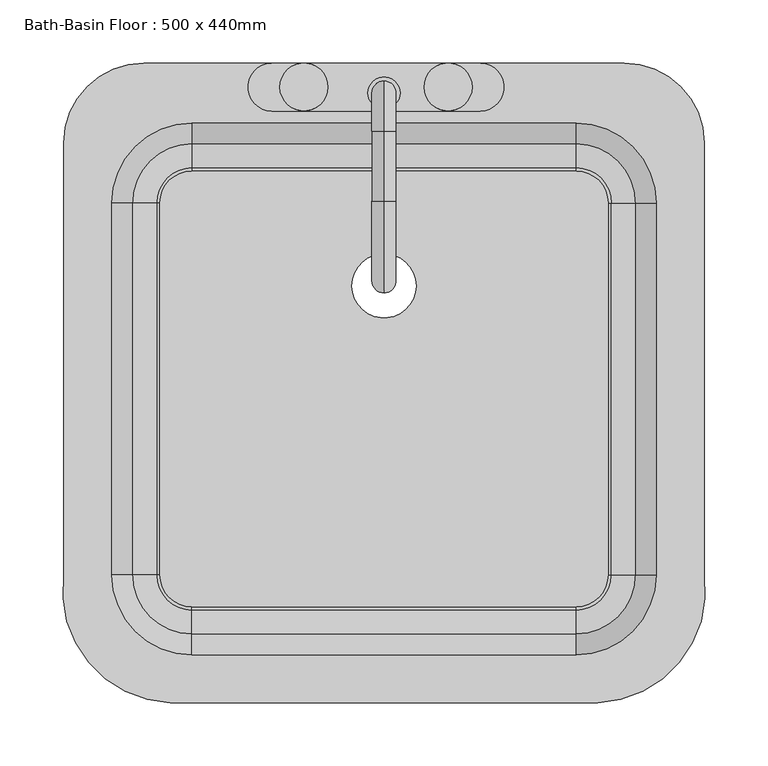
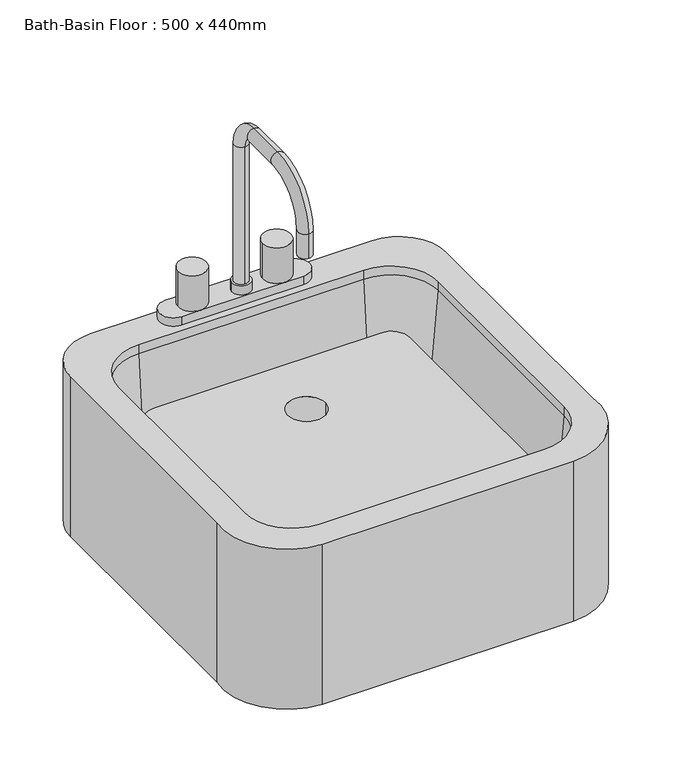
"""IFC4 building model written with IfcOpenShell, lengths in millimetres: flow terminal geometry, Bath-Basin Floor : 500 x 440mm."""

from ifc_helpers import new_model, si_unit, point, frame, origin, place, context, project, spatial, polyline, circle_curve, ellipse_curve, trimmed, source, transform, mapped, element, save
from ifc_brep_helpers import plane_surface, cylinder_surface, revolved_surface, advanced_brep


def bath_basin_floor_500_x_440mm_6f474ecf(model_context):
    return source(origin(), model_context, "Body", "AdvancedBrep", [
        advanced_brep(
        [(-153.9606923, -327.8545989, 393.7), (-238.3107593, -226.2545982, 393.7), (-238.3107593, 116.6454011, 393.7), (-174.8107593, 180.1454011, 393.7), (206.1892406, 180.1454011, 393.7), (269.6892406, 116.6454011, 393.7), (269.6892406, -226.2545989, 393.7), (185.3391735, -327.8545989, 393.7), (-9.7107594, 3.175, 393.7), (41.0892406, 3.175, 393.7), (196.0776588, 69.0204011, 403.225), (168.0892406, 97.0088193, 403.225), (168.0892406, 94.4204011, 403.225), (193.4892406, 69.0204011, 403.225), (215.0551678, 69.0204011, 420.6146831), (168.0892406, 115.9863283, 420.6146831), (231.5892406, 69.0204011, 609.6), (168.0892406, 132.5204011, 609.6), (196.0776588, -226.2545989, 403.225), (215.0551678, -226.2545989, 420.6146831), (231.5892406, -226.2545989, 609.6), (168.0892406, -254.2430171, 403.225), (168.0892406, -273.2205261, 420.6146831), (168.0892406, -289.7545989, 609.6), (-136.7107594, -254.2430171, 403.225), (-136.7107594, -273.2205261, 420.6146831), (-136.7107594, -289.7545989, 609.6), (-164.6991776, -226.2545989, 403.225), (-183.6766866, -226.2545989, 420.6146831), (-200.2107594, -226.2545989, 609.6), (-164.6991776, 69.0204011, 403.225), (-183.6766866, 69.0204011, 420.6146831), (-200.2107594, 69.0204011, 609.6), (-136.7107594, 97.0088193, 403.225), (-136.7107594, 115.9863283, 420.6146831), (-136.7107594, 132.5204011, 609.6), (41.0892406, 3.175, 555.625), (-9.7107594, 3.175, 555.625), (-153.9606923, -327.8545989, 622.3), (185.3391735, -327.8545989, 622.3), (269.6892406, -226.2545989, 622.3), (269.6892406, 116.6454011, 622.3), (206.1892406, 180.1454011, 622.3), (-174.8107593, 180.1454011, 622.3), (-238.3107593, 116.6454011, 622.3), (-238.3107593, -226.2545982, 622.3), (168.0892406, 132.5204011, 622.3), (231.5892406, 69.0204011, 622.3), (231.5892406, -226.2545989, 622.3), (168.0892406, -289.7545989, 622.3), (-136.7107594, -289.7545989, 622.3), (-200.2107594, -226.2545989, 622.3), (-200.2107594, 69.0204011, 622.3), (-136.7107594, 132.5204011, 622.3), (193.4892406, -226.2545989, 403.225), (168.0892406, -251.6545989, 403.225), (-136.7107594, -251.6545989, 403.225), (-162.1107594, -226.2545989, 403.225), (-162.1107594, 69.0204011, 403.225), (-136.7107594, 94.4204011, 403.225), (168.0892406, 94.4204011, 555.625), (-136.7107594, 94.4204011, 555.625), (-162.1107594, 69.0204011, 555.625), (-162.1107594, -226.2545989, 555.625), (-136.7107594, -251.6545989, 555.625), (168.0892406, -251.6545989, 555.625), (193.4892406, -226.2545989, 555.625), (193.4892406, 69.0204011, 555.625)],
        [
            (0, 1, circle_curve(frame((-150.1534746, -238.8793432, 393.7), z_axis=(0.0, 0.0, -1.0), x_axis=(1.0, 0.0, 0.0)), 89.0566732)),
            (1, 2),
            (2, 3, circle_curve(frame((-174.8107593, 116.6454011, 393.7), z_axis=(0.0, 0.0, -1.0), x_axis=(1.0, 0.0, 0.0)), 63.5)),
            (3, 4),
            (4, 5, circle_curve(frame((206.1892406, 116.6454011, 393.7), z_axis=(0.0, 0.0, -1.0), x_axis=(1.0, 0.0, 0.0)), 63.5)),
            (5, 6),
            (6, 7, circle_curve(frame((181.5319557, -238.8793432, 393.7), z_axis=(0.0, 0.0, -1.0), x_axis=(1.0, 0.0, 0.0)), 89.0566732)),
            (7, 0),
            (8, 9, circle_curve(frame((15.6892406, 3.175, 393.7), z_axis=(0.0, 0.0, 1.0), x_axis=(1.0, 0.0, 0.0)), 25.4)),
            (9, 8, circle_curve(frame((15.6892406, 3.175, 393.7), z_axis=(0.0, 0.0, 1.0), x_axis=(1.0, 0.0, 0.0)), 25.4)),
            (10, 11, circle_curve(frame((168.0892406, 69.0204011, 403.225), z_axis=(0.0, 0.0, 1.0), x_axis=(0.0, 1.0, 0.0)), 27.9884182)),
            (11, 12),
            (12, 13, circle_curve(frame((168.0892406, 69.0204011, 403.225), z_axis=(0.0, 0.0, -1.0), x_axis=(1.0, 0.0, 0.0)), 25.4)),
            (13, 10),
            (10, 14, circle_curve(frame((196.0776588, 69.0204011, 422.275), z_axis=(0.0, -1.0, 0.0), x_axis=(1.0, 0.0, 0.0)), 19.05)),
            (14, 15, circle_curve(frame((168.0892406, 69.0204011, 420.6146831), z_axis=(0.0, 0.0, 1.0), x_axis=(0.0, 1.0, 0.0)), 46.9659272)),
            (15, 11, circle_curve(frame((168.0892406, 97.0088193, 422.275), z_axis=(-1.0, 0.0, 0.0), x_axis=(0.0, 1.0, 0.0)), 19.05)),
            (14, 16),
            (16, 17, circle_curve(frame((168.0892406, 69.0204011, 609.6), z_axis=(0.0, 0.0, 1.0), x_axis=(0.0, 1.0, 0.0)), 63.5)),
            (17, 15),
            (10, 18),
            (18, 19, circle_curve(frame((196.0776588, -226.2545989, 422.275), z_axis=(0.0, -1.0, 0.0), x_axis=(1.0, 0.0, 0.0)), 19.05)),
            (19, 14),
            (19, 20),
            (20, 16),
            (18, 21, circle_curve(frame((168.0892406, -226.2545989, 403.225), z_axis=(0.0, 0.0, -1.0), x_axis=(1.0, 0.0, 0.0)), 27.9884182)),
            (21, 22, circle_curve(frame((168.0892406, -254.2430171, 422.275), z_axis=(-1.0, 0.0, 0.0), x_axis=(0.0, -1.0, 0.0)), 19.05)),
            (22, 19, circle_curve(frame((168.0892406, -226.2545989, 420.6146831), z_axis=(0.0, 0.0, 1.0), x_axis=(1.0, 0.0, 0.0)), 46.9659272)),
            (22, 23),
            (23, 20, circle_curve(frame((168.0892406, -226.2545989, 609.6), z_axis=(0.0, 0.0, 1.0), x_axis=(1.0, 0.0, 0.0)), 63.5)),
            (21, 24),
            (24, 25, circle_curve(frame((-136.7107594, -254.2430171, 422.275), z_axis=(-1.0, 0.0, 0.0), x_axis=(0.0, -1.0, 0.0)), 19.05)),
            (25, 22),
            (25, 26),
            (26, 23),
            (24, 27, circle_curve(frame((-136.7107594, -226.2545989, 403.225), z_axis=(0.0, 0.0, -1.0), x_axis=(0.0, -1.0, 0.0)), 27.9884182)),
            (27, 28, circle_curve(frame((-164.6991776, -226.2545989, 422.275), z_axis=(0.0, 1.0, 0.0), x_axis=(-1.0, 0.0, 0.0)), 19.05)),
            (28, 25, circle_curve(frame((-136.7107594, -226.2545989, 420.6146831), z_axis=(0.0, 0.0, 1.0), x_axis=(0.0, -1.0, 0.0)), 46.9659272)),
            (28, 29),
            (29, 26, circle_curve(frame((-136.7107594, -226.2545989, 609.6), z_axis=(0.0, 0.0, 1.0), x_axis=(0.0, -1.0, 0.0)), 63.5)),
            (27, 30),
            (30, 31, circle_curve(frame((-164.6991776, 69.0204011, 422.275), z_axis=(0.0, 1.0, 0.0), x_axis=(-1.0, 0.0, 0.0)), 19.05)),
            (31, 28),
            (31, 32),
            (32, 29),
            (30, 33, circle_curve(frame((-136.7107594, 69.0204011, 403.225), z_axis=(0.0, 0.0, -1.0), x_axis=(-1.0, 0.0, 0.0)), 27.9884182)),
            (33, 34, circle_curve(frame((-136.7107594, 97.0088193, 422.275), z_axis=(1.0, 0.0, 0.0), x_axis=(0.0, 1.0, 0.0)), 19.05)),
            (34, 31, circle_curve(frame((-136.7107594, 69.0204011, 420.6146831), z_axis=(0.0, 0.0, 1.0), x_axis=(-1.0, 0.0, 0.0)), 46.9659272)),
            (34, 35),
            (35, 32, circle_curve(frame((-136.7107594, 69.0204011, 609.6), z_axis=(0.0, 0.0, 1.0), x_axis=(-1.0, 0.0, 0.0)), 63.5)),
            (15, 34),
            (33, 11),
            (17, 35),
            (36, 37, circle_curve(frame((15.6892406, 3.175, 555.625), z_axis=(0.0, 0.0, 1.0), x_axis=(1.0, 0.0, 0.0)), 25.4)),
            (37, 8),
            (9, 36),
            (37, 36, circle_curve(frame((15.6892406, 3.175, 555.625), z_axis=(0.0, 0.0, 1.0), x_axis=(1.0, 0.0, 0.0)), 25.4)),
            (38, 39),
            (39, 40, circle_curve(frame((181.5319557, -238.8793432, 622.3), z_axis=(0.0, 0.0, 1.0), x_axis=(1.0, 0.0, 0.0)), 89.0566732)),
            (40, 41),
            (41, 42, circle_curve(frame((206.1892406, 116.6454011, 622.3), z_axis=(0.0, 0.0, 1.0), x_axis=(1.0, 0.0, 0.0)), 63.5)),
            (42, 43),
            (43, 44, circle_curve(frame((-174.8107593, 116.6454011, 622.3), z_axis=(0.0, 0.0, 1.0), x_axis=(1.0, 0.0, 0.0)), 63.5)),
            (44, 45),
            (45, 38, circle_curve(frame((-150.1534746, -238.8793432, 622.3), z_axis=(0.0, 0.0, 1.0), x_axis=(1.0, 0.0, 0.0)), 89.0566732)),
            (46, 47, circle_curve(frame((168.0892406, 69.0204011, 622.3), z_axis=(0.0, 0.0, -1.0), x_axis=(1.0, 0.0, 0.0)), 63.5)),
            (47, 48),
            (48, 49, circle_curve(frame((168.0892406, -226.2545989, 622.3), z_axis=(0.0, 0.0, -1.0), x_axis=(1.0, 0.0, 0.0)), 63.5)),
            (49, 50),
            (50, 51, circle_curve(frame((-136.7107594, -226.2545989, 622.3), z_axis=(0.0, 0.0, -1.0), x_axis=(1.0, 0.0, 0.0)), 63.5)),
            (51, 52),
            (52, 53, circle_curve(frame((-136.7107594, 69.0204011, 622.3), z_axis=(0.0, 0.0, -1.0), x_axis=(1.0, 0.0, 0.0)), 63.5)),
            (53, 46),
            (38, 0),
            (7, 39),
            (6, 40),
            (5, 41),
            (4, 42),
            (3, 43),
            (2, 44),
            (1, 45),
            (46, 17),
            (16, 47),
            (20, 48),
            (23, 49),
            (26, 50),
            (29, 51),
            (32, 52),
            (35, 53),
            (13, 54),
            (54, 18),
            (54, 55, circle_curve(frame((168.0892406, -226.2545989, 403.225), z_axis=(0.0, 0.0, -1.0), x_axis=(1.0, 0.0, 0.0)), 25.4)),
            (55, 21),
            (55, 56),
            (56, 24),
            (56, 57, circle_curve(frame((-136.7107594, -226.2545989, 403.225), z_axis=(0.0, 0.0, -1.0), x_axis=(1.0, 0.0, 0.0)), 25.4)),
            (57, 27),
            (57, 58),
            (58, 30),
            (58, 59, circle_curve(frame((-136.7107594, 69.0204011, 403.225), z_axis=(0.0, 0.0, -1.0), x_axis=(1.0, 0.0, 0.0)), 25.4)),
            (59, 33),
            (59, 12),
            (60, 61),
            (61, 62, circle_curve(frame((-136.7107594, 69.0204011, 555.625), z_axis=(0.0, 0.0, 1.0), x_axis=(1.0, 0.0, 0.0)), 25.4)),
            (62, 63),
            (63, 64, circle_curve(frame((-136.7107594, -226.2545989, 555.625), z_axis=(0.0, 0.0, 1.0), x_axis=(1.0, 0.0, 0.0)), 25.4)),
            (64, 65),
            (65, 66, circle_curve(frame((168.0892406, -226.2545989, 555.625), z_axis=(0.0, 0.0, 1.0), x_axis=(1.0, 0.0, 0.0)), 25.4)),
            (66, 67),
            (67, 60, circle_curve(frame((168.0892406, 69.0204011, 555.625), z_axis=(0.0, 0.0, 1.0), x_axis=(1.0, 0.0, 0.0)), 25.4)),
            (60, 12),
            (59, 61),
            (58, 62),
            (57, 63),
            (56, 64),
            (55, 65),
            (54, 66),
            (13, 67),
        ],
        [
            plane_surface(frame((168.0892406, 69.0204011, 393.7), z_axis=(0.0, 0.0, -1.0), x_axis=(0.0, 1.0, 0.0))),
            plane_surface(frame((168.0892406, 69.0204011, 403.225), z_axis=(0.0, 0.0, 1.0), x_axis=(0.0, 1.0, 0.0))),
            revolved_surface(trimmed(ellipse_curve(frame((168.0892406, 97.0088193, 422.275), z_axis=(1.0, 0.0, 0.0), x_axis=(0.0, 1.0, 0.0)), 19.05, 19.05), [point((168.0892406, 97.0088193, 403.225))], [point((168.0892406, 115.9863283, 420.6146831))], True, "CARTESIAN"), (168.0892406, 69.0204011, 0.0), (0.0, 0.0, -1.0)),
            revolved_surface(polyline([(168.0892406, 115.9863283, 420.6146831), (168.0892406, 132.5204011, 609.6)]), (168.0892406, 69.0204011, 0.0), (0.0, 0.0, -1.0)),
            revolved_surface(polyline([(215.1276588, -226.25459889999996, 422.275), (215.1276588, 69.0204011, 422.275)]), (196.0776588, 69.0204011, 422.275), (0.0, -1.0, 0.0)),
            plane_surface(frame((215.0551678, 69.0204011, 420.6146831), z_axis=(-0.9961946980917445, 0.0, 0.08715574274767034), x_axis=(0.0, -1.0, 0.0))),
            revolved_surface(trimmed(ellipse_curve(frame((196.0776588, -226.2545989, 422.275), z_axis=(0.0, -1.0, 0.0), x_axis=(1.0, 0.0, 0.0)), 19.05, 19.05), [point((196.0776588, -226.2545989, 403.225))], [point((215.0551678, -226.2545989, 420.6146831))], True, "CARTESIAN"), (168.0892406, -226.2545989, 0.0), (0.0, 0.0, -1.0)),
            revolved_surface(polyline([(215.0551678, -226.2545989, 420.6146831), (231.5892406, -226.2545989, 609.6)]), (168.0892406, -226.2545989, 0.0), (0.0, 0.0, -1.0)),
            revolved_surface(polyline([(-136.7107594, -273.2930171, 422.275), (168.0892406, -273.2930171, 422.275)]), (168.0892406, -254.2430171, 422.275), (-1.0, 0.0, 0.0)),
            plane_surface(frame((168.0892406, -273.2205261, 420.6146831), z_axis=(0.0, 0.9961946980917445, 0.08715574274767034), x_axis=(-1.0, 0.0, 0.0))),
            revolved_surface(trimmed(ellipse_curve(frame((-136.7107594, -254.2430171, 422.275), z_axis=(-1.0, 0.0, 0.0), x_axis=(0.0, -1.0, 0.0)), 19.05, 19.05), [point((-136.7107594, -254.2430171, 403.225))], [point((-136.7107594, -273.2205261, 420.6146831))], True, "CARTESIAN"), (-136.7107594, -226.2545989, 0.0), (0.0, 0.0, -1.0)),
            revolved_surface(polyline([(-136.7107594, -273.2205261, 420.6146831), (-136.7107594, -289.7545989, 609.6)]), (-136.7107594, -226.2545989, 0.0), (0.0, 0.0, -1.0)),
            revolved_surface(polyline([(-183.74917760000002, 69.02040109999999, 422.275), (-183.74917760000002, -226.2545989, 422.275)]), (-164.6991776, -226.2545989, 422.275), (0.0, 1.0, 0.0)),
            plane_surface(frame((-183.6766866, -226.2545989, 420.6146831), z_axis=(0.9961946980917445, 0.0, 0.08715574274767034), x_axis=(0.0, 1.0, 0.0))),
            revolved_surface(trimmed(ellipse_curve(frame((-164.6991776, 69.0204011, 422.275), z_axis=(0.0, 1.0, 0.0), x_axis=(-1.0, 0.0, 0.0)), 19.05, 19.05), [point((-164.6991776, 69.0204011, 403.225))], [point((-183.6766866, 69.0204011, 420.6146831))], True, "CARTESIAN"), (-136.7107594, 69.0204011, 0.0), (0.0, 0.0, -1.0)),
            revolved_surface(polyline([(-183.6766866, 69.0204011, 420.6146831), (-200.2107594, 69.0204011, 609.6)]), (-136.7107594, 69.0204011, 0.0), (0.0, 0.0, -1.0)),
            revolved_surface(polyline([(168.0892406, 116.0588193, 422.275), (-136.7107594, 116.0588193, 422.275)]), (-136.7107594, 97.0088193, 422.275), (1.0, 0.0, 0.0)),
            plane_surface(frame((-136.7107594, 115.9863283, 420.6146831), z_axis=(0.0, -0.9961946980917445, 0.08715574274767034), x_axis=(1.0, 0.0, 0.0))),
            revolved_surface(polyline([(41.0892406, 3.175, 393.7), (41.0892406, 3.175, 555.625)]), (15.6892406, 3.175, 0.0), (0.0, 0.0, -1.0)),
            plane_surface(frame((185.3391735, -327.8545989, 622.3), z_axis=(0.0, 0.0, 1.0), x_axis=(1.0, 0.0, 0.0))),
            plane_surface(frame((-153.9606923, -327.8545989, 622.3), z_axis=(0.0, -1.0, 0.0), x_axis=(0.0, 0.0, -1.0))),
            cylinder_surface(frame((181.5319557, -238.8793432, 393.7), z_axis=(0.0, 0.0, 1.0), x_axis=(1.0, 0.0, 0.0)), 89.0566732),
            plane_surface(frame((269.6892406, -226.2545989, 622.3), z_axis=(1.0, 0.0, 0.0), x_axis=(0.0, 0.0, -1.0))),
            cylinder_surface(frame((206.1892406, 116.6454011, 393.7), z_axis=(0.0, 0.0, 1.0), x_axis=(1.0, 0.0, 0.0)), 63.5),
            plane_surface(frame((206.1892406, 180.1454011, 622.3), z_axis=(0.0, 1.0, 0.0), x_axis=(0.0, 0.0, -1.0))),
            cylinder_surface(frame((-174.8107593, 116.6454011, 393.7), z_axis=(0.0, 0.0, 1.0), x_axis=(1.0, 0.0, 0.0)), 63.5),
            plane_surface(frame((-238.3107593, 116.6454011, 622.3), z_axis=(-1.0, 0.0, 0.0), x_axis=(0.0, 0.0, -1.0))),
            cylinder_surface(frame((-150.1534746, -238.8793432, 393.7), z_axis=(0.0, 0.0, 1.0), x_axis=(1.0, 0.0, 0.0)), 89.0566732),
            revolved_surface(polyline([(231.5892406, 69.0204011, 609.6), (231.5892406, 69.0204011, 622.3)]), (168.0892406, 69.0204011, 0.0), (0.0, 0.0, -1.0)),
            plane_surface(frame((231.5892406, 69.0204011, 622.3), z_axis=(-1.0, 0.0, 0.0), x_axis=(0.0, 0.0, -1.0))),
            revolved_surface(polyline([(231.5892406, -226.2545989, 609.6), (231.5892406, -226.2545989, 622.3)]), (168.0892406, -226.2545989, 0.0), (0.0, 0.0, -1.0)),
            plane_surface(frame((168.0892406, -289.7545989, 622.3), z_axis=(0.0, 1.0, 0.0), x_axis=(0.0, 0.0, -1.0))),
            revolved_surface(polyline([(-73.2107594, -226.2545989, 609.6), (-73.2107594, -226.2545989, 622.3)]), (-136.7107594, -226.2545989, 0.0), (0.0, 0.0, -1.0)),
            plane_surface(frame((-200.2107594, -226.2545989, 622.3), z_axis=(1.0, 0.0, 0.0), x_axis=(0.0, 0.0, -1.0))),
            revolved_surface(polyline([(-73.2107594, 69.0204011, 609.6), (-73.2107594, 69.0204011, 622.3)]), (-136.7107594, 69.0204011, 0.0), (0.0, 0.0, -1.0)),
            plane_surface(frame((-136.7107594, 132.5204011, 622.3), z_axis=(0.0, -1.0, 0.0), x_axis=(0.0, 0.0, -1.0))),
            plane_surface(frame((193.4892406, 69.0204011, 403.225), z_axis=(0.0, 0.0, 1.0), x_axis=(0.0, -1.0, 0.0))),
            plane_surface(frame((168.0892406, -226.2545989, 403.225), z_axis=(0.0, 0.0, 1.0), x_axis=(1.0, 0.0, 0.0))),
            plane_surface(frame((168.0892406, -251.6545989, 403.225), z_axis=(0.0, 0.0, 1.0), x_axis=(-1.0, 0.0, 0.0))),
            plane_surface(frame((-136.7107594, -226.2545989, 403.225), z_axis=(0.0, 0.0, 1.0), x_axis=(0.0, -1.0, 0.0))),
            plane_surface(frame((-162.1107594, -226.2545989, 403.225), z_axis=(0.0, 0.0, 1.0), x_axis=(0.0, 1.0, 0.0))),
            plane_surface(frame((-136.7107594, 69.0204011, 403.225), z_axis=(0.0, 0.0, 1.0), x_axis=(-1.0, 0.0, 0.0))),
            plane_surface(frame((-136.7107594, 94.4204011, 403.225), z_axis=(0.0, 0.0, 1.0), x_axis=(1.0, 0.0, 0.0))),
            plane_surface(frame((-136.7107594, 94.4204011, 555.625), z_axis=(0.0, 0.0, 1.0), x_axis=(-1.0, 0.0, 0.0))),
            plane_surface(frame((168.0892406, 94.4204011, 555.625), z_axis=(0.0, 1.0, 0.0), x_axis=(0.0, 0.0, -1.0))),
            cylinder_surface(frame((-136.7107594, 69.0204011, 393.7), z_axis=(0.0, 0.0, 1.0), x_axis=(1.0, 0.0, 0.0)), 25.4),
            plane_surface(frame((-162.1107594, 69.0204011, 555.625), z_axis=(-1.0, 0.0, 0.0), x_axis=(0.0, 0.0, -1.0))),
            cylinder_surface(frame((-136.7107594, -226.2545989, 393.7), z_axis=(0.0, 0.0, 1.0), x_axis=(1.0, 0.0, 0.0)), 25.4),
            plane_surface(frame((-136.7107594, -251.6545989, 555.625), z_axis=(0.0, -1.0, 0.0), x_axis=(0.0, 0.0, -1.0))),
            cylinder_surface(frame((168.0892406, -226.2545989, 393.7), z_axis=(0.0, 0.0, 1.0), x_axis=(1.0, 0.0, 0.0)), 25.4),
            plane_surface(frame((193.4892406, -226.2545989, 555.625), z_axis=(1.0, 0.0, 0.0), x_axis=(0.0, 0.0, -1.0))),
            cylinder_surface(frame((168.0892406, 69.0204011, 393.7), z_axis=(0.0, 0.0, 1.0), x_axis=(1.0, 0.0, 0.0)), 25.4),
        ],
        [
            (0, [[1, 2, 3, 4, 5, 6, 7, 8], [9, 10]]),
            (1, [[11, 12, 13, 14]]),
            (2, [[-11, 15, 16, 17]]),
            (3, [[-16, 18, 19, 20]]),
            (4, [[-15, 21, 22, 23]]),
            (5, [[-18, -23, 24, 25]]),
            (6, [[-22, 26, 27, 28]]),
            (7, [[-24, -28, 29, 30]]),
            (8, [[-27, 31, 32, 33]]),
            (9, [[-29, -33, 34, 35]]),
            (10, [[-32, 36, 37, 38]]),
            (11, [[-34, -38, 39, 40]]),
            (12, [[-37, 41, 42, 43]]),
            (13, [[-39, -43, 44, 45]]),
            (14, [[-42, 46, 47, 48]]),
            (15, [[-44, -48, 49, 50]]),
            (16, [[-17, 51, -47, 52]]),
            (17, [[-20, 53, -49, -51]]),
            (18, [[54, 55, -10, 56]]),
            (18, [[57, -56, -9, -55]]),
            (19, [[58, 59, 60, 61, 62, 63, 64, 65], [66, 67, 68, 69, 70, 71, 72, 73]]),
            (20, [[-58, 74, -8, 75]]),
            (21, [[-59, -75, -7, 76]]),
            (22, [[-60, -76, -6, 77]]),
            (23, [[-61, -77, -5, 78]]),
            (24, [[-62, -78, -4, 79]]),
            (25, [[-63, -79, -3, 80]]),
            (26, [[-64, -80, -2, 81]]),
            (27, [[-65, -81, -1, -74]]),
            (28, [[-66, 82, -19, 83]]),
            (29, [[-67, -83, -25, 84]]),
            (30, [[-68, -84, -30, 85]]),
            (31, [[-69, -85, -35, 86]]),
            (32, [[-70, -86, -40, 87]]),
            (33, [[-71, -87, -45, 88]]),
            (34, [[-72, -88, -50, 89]]),
            (35, [[-73, -89, -53, -82]]),
            (36, [[-14, 90, 91, -21]]),
            (37, [[-91, 92, 93, -26]]),
            (38, [[-93, 94, 95, -31]]),
            (39, [[-95, 96, 97, -36]]),
            (40, [[-97, 98, 99, -41]]),
            (41, [[-99, 100, 101, -46]]),
            (42, [[-12, -52, -101, 102]]),
            (43, [[103, 104, 105, 106, 107, 108, 109, 110], [-54, -57]]),
            (44, [[-103, 111, -102, 112]]),
            (45, [[-104, -112, -100, 113]]),
            (46, [[-105, -113, -98, 114]]),
            (47, [[-106, -114, -96, 115]]),
            (48, [[-107, -115, -94, 116]]),
            (49, [[-108, -116, -92, 117]]),
            (50, [[-109, -117, -90, 118]]),
            (51, [[-110, -118, -13, -111]]),
        ],
    ),
        advanced_brep(
        [(91.8892406, 180.1454011, 622.3), (91.8892406, 142.0454011, 622.3), (66.4892406, 142.0454011, 622.3), (-47.8107594, 142.0454011, 622.3), (-73.2107594, 142.0454011, 622.3), (-73.2107594, 180.1454011, 622.3), (-47.8107594, 180.1454011, 622.3), (66.4892406, 180.1454011, 622.3), (15.6892406, 165.8579011, 842.9625), (15.6892406, 146.8079011, 842.9625), (15.6892406, 146.8079011, 647.7), (15.6892406, 165.8579011, 647.7), (15.6892406, 126.1704011, 882.65), (15.6892406, 126.1704011, 863.6), (15.6892406, 70.6079011, 882.65), (15.6892406, 70.6079011, 863.6), (15.6892406, -2.4170989, 809.625), (15.6892406, 16.6329011, 809.625), (15.6892406, -2.4170989, 774.7), (15.6892406, 16.6329011, 774.7), (2.9892406, 156.3329011, 647.7), (28.3892406, 156.3329011, 647.7), (2.9892406, 156.3329011, 634.8), (28.3892406, 156.3329011, 634.8), (-73.2107594, 180.1454011, 634.8), (-73.2107594, 142.0454011, 634.8), (-47.8107594, 142.0454011, 634.8), (-66.8607594, 161.0954011, 634.8), (-47.8107594, 180.1454011, 634.8), (91.8892406, 142.0454011, 634.8), (91.8892406, 180.1454011, 634.8), (66.4892406, 180.1454011, 634.8), (85.5392406, 161.0954011, 634.8), (66.4892406, 142.0454011, 634.8), (-28.7607594, 161.0954011, 634.8), (47.4392406, 161.0954011, 634.8), (-66.8607594, 161.0954011, 685.8), (-28.7607594, 161.0954011, 685.8), (47.4392406, 161.0954011, 685.8), (85.5392406, 161.0954011, 685.8)],
        [
            (0, 1, circle_curve(frame((91.8892406, 161.0954011, 622.3), z_axis=(0.0, 0.0, -1.0), x_axis=(1.0, 0.0, 0.0)), 19.05)),
            (1, 2),
            (2, 3),
            (3, 4),
            (4, 5, circle_curve(frame((-73.2107594, 161.0954011, 622.3), z_axis=(0.0, 0.0, -1.0), x_axis=(1.0, 0.0, 0.0)), 19.05)),
            (5, 6),
            (6, 7),
            (7, 0),
            (8, 9, circle_curve(frame((15.6892406, 156.3329011, 842.9625), z_axis=(0.0, 0.0, -1.0), x_axis=(0.0, -1.0, 0.0)), 9.525)),
            (9, 10),
            (10, 11, circle_curve(frame((15.6892406, 156.3329011, 647.7), z_axis=(0.0, 0.0, 1.0), x_axis=(0.0, -1.0, 0.0)), 9.525)),
            (11, 8),
            (9, 8, circle_curve(frame((15.6892406, 156.3329011, 842.9625), z_axis=(0.0, 0.0, -1.0), x_axis=(0.0, -1.0, 0.0)), 9.525)),
            (11, 10, circle_curve(frame((15.6892406, 156.3329011, 647.7), z_axis=(0.0, 0.0, 1.0), x_axis=(0.0, -1.0, 0.0)), 9.525)),
            (8, 12, circle_curve(frame((15.6892406, 126.1704011, 842.9625), z_axis=(1.0, 0.0, 0.0), x_axis=(0.0, 1.0, 0.0)), 39.6875)),
            (12, 13, circle_curve(frame((15.6892406, 126.1704011, 873.125), z_axis=(0.0, 1.0, 0.0), x_axis=(0.0, 0.0, -1.0)), 9.525)),
            (13, 9, circle_curve(frame((15.6892406, 126.1704011, 842.9625), z_axis=(-1.0, 0.0, 0.0), x_axis=(0.0, 1.0, 0.0)), 20.6375)),
            (13, 12, circle_curve(frame((15.6892406, 126.1704011, 873.125), z_axis=(0.0, 1.0, 0.0), x_axis=(0.0, 0.0, -1.0)), 9.525)),
            (12, 14),
            (14, 15, circle_curve(frame((15.6892406, 70.6079011, 873.125), z_axis=(0.0, 1.0, 0.0), x_axis=(0.0, 0.0, -1.0)), 9.525)),
            (15, 13),
            (15, 14, circle_curve(frame((15.6892406, 70.6079011, 873.125), z_axis=(0.0, 1.0, 0.0), x_axis=(0.0, 0.0, -1.0)), 9.525)),
            (14, 16, circle_curve(frame((15.6892406, 70.6079011, 809.625), z_axis=(1.0, 0.0, 0.0), x_axis=(0.0, 0.0, 1.0)), 73.025)),
            (16, 17, circle_curve(frame((15.6892406, 7.1079011, 809.625), z_axis=(0.0, 0.0, 1.0), x_axis=(0.0, 1.0, 0.0)), 9.525)),
            (17, 15, circle_curve(frame((15.6892406, 70.6079011, 809.625), z_axis=(-1.0, 0.0, 0.0), x_axis=(0.0, 0.0, 1.0)), 53.975)),
            (17, 16, circle_curve(frame((15.6892406, 7.1079011, 809.625), z_axis=(0.0, 0.0, 1.0), x_axis=(0.0, 1.0, 0.0)), 9.525)),
            (18, 19, circle_curve(frame((15.6892406, 7.1079011, 774.7), z_axis=(0.0, 0.0, -1.0), x_axis=(0.0, 1.0, 0.0)), 9.525)),
            (19, 18, circle_curve(frame((15.6892406, 7.1079011, 774.7), z_axis=(0.0, 0.0, -1.0), x_axis=(0.0, 1.0, 0.0)), 9.525)),
            (16, 18),
            (19, 17),
            (20, 21, circle_curve(frame((15.6892406, 156.3329011, 647.7), z_axis=(0.0, 0.0, 1.0), x_axis=(1.0, 0.0, 0.0)), 12.7)),
            (21, 20, circle_curve(frame((15.6892406, 156.3329011, 647.7), z_axis=(0.0, 0.0, 1.0), x_axis=(1.0, 0.0, 0.0)), 12.7)),
            (20, 22),
            (22, 23, circle_curve(frame((15.6892406, 156.3329011, 634.8), z_axis=(0.0, 0.0, 1.0), x_axis=(1.0, 0.0, 0.0)), 12.7)),
            (23, 21),
            (23, 22, circle_curve(frame((15.6892406, 156.3329011, 634.8), z_axis=(0.0, 0.0, 1.0), x_axis=(1.0, 0.0, 0.0)), 12.7)),
            (24, 25, circle_curve(frame((-73.2107594, 161.0954011, 634.8), z_axis=(0.0, 0.0, 1.0), x_axis=(1.0, 0.0, 0.0)), 19.05)),
            (25, 26),
            (26, 27, circle_curve(frame((-47.8107594, 161.0954011, 634.8), z_axis=(0.0, 0.0, -1.0), x_axis=(1.0, 0.0, 0.0)), 19.05)),
            (27, 28, circle_curve(frame((-47.8107594, 161.0954011, 634.8), z_axis=(0.0, 0.0, -1.0), x_axis=(1.0, 0.0, 0.0)), 19.05)),
            (28, 24),
            (29, 30, circle_curve(frame((91.8892406, 161.0954011, 634.8), z_axis=(0.0, 0.0, 1.0), x_axis=(1.0, 0.0, 0.0)), 19.05)),
            (30, 31),
            (31, 32, circle_curve(frame((66.4892406, 161.0954011, 634.8), z_axis=(0.0, 0.0, -1.0), x_axis=(1.0, 0.0, 0.0)), 19.05)),
            (32, 33, circle_curve(frame((66.4892406, 161.0954011, 634.8), z_axis=(0.0, 0.0, -1.0), x_axis=(1.0, 0.0, 0.0)), 19.05)),
            (33, 29),
            (31, 28),
            (28, 34, circle_curve(frame((-47.8107594, 161.0954011, 634.8), z_axis=(0.0, 0.0, -1.0), x_axis=(1.0, 0.0, 0.0)), 19.05)),
            (34, 26, circle_curve(frame((-47.8107594, 161.0954011, 634.8), z_axis=(0.0, 0.0, -1.0), x_axis=(1.0, 0.0, 0.0)), 19.05)),
            (26, 33),
            (33, 35, circle_curve(frame((66.4892406, 161.0954011, 634.8), z_axis=(0.0, 0.0, -1.0), x_axis=(1.0, 0.0, 0.0)), 19.05)),
            (35, 31, circle_curve(frame((66.4892406, 161.0954011, 634.8), z_axis=(0.0, 0.0, -1.0), x_axis=(1.0, 0.0, 0.0)), 19.05)),
            (30, 0),
            (5, 24),
            (4, 25),
            (1, 29),
            (36, 37, circle_curve(frame((-47.8107594, 161.0954011, 685.8), z_axis=(0.0, 0.0, 1.0), x_axis=(1.0, 0.0, 0.0)), 19.05)),
            (37, 36, circle_curve(frame((-47.8107594, 161.0954011, 685.8), z_axis=(0.0, 0.0, 1.0), x_axis=(1.0, 0.0, 0.0)), 19.05)),
            (38, 39, circle_curve(frame((66.4892406, 161.0954011, 685.8), z_axis=(0.0, 0.0, 1.0), x_axis=(1.0, 0.0, 0.0)), 19.05)),
            (39, 38, circle_curve(frame((66.4892406, 161.0954011, 685.8), z_axis=(0.0, 0.0, 1.0), x_axis=(1.0, 0.0, 0.0)), 19.05)),
            (36, 27),
            (34, 37),
            (38, 35),
            (32, 39),
        ],
        [
            plane_surface(frame((15.6892406, 146.8079011, 622.3), z_axis=(0.0, 0.0, -1.0), x_axis=(1.0, 0.0, 0.0))),
            cylinder_surface(frame((15.6892406, 156.3329011, 622.3), z_axis=(0.0, 0.0, -1.0), x_axis=(0.0, -1.0, 0.0)), 9.525),
            revolved_surface(trimmed(ellipse_curve(frame((15.6892406, 156.3329011, 842.9625), z_axis=(0.0, 0.0, -1.0), x_axis=(0.0, -1.0, 0.0)), 9.525, 9.525), [point((15.6892406, 165.8579011, 842.9625))], [point((15.6892406, 146.8079011, 842.9625))], True, "CARTESIAN"), (15.6892406, 126.1704011, 842.9625), (1.0, 0.0, 0.0)),
            revolved_surface(trimmed(ellipse_curve(frame((15.6892406, 156.3329011, 842.9625), z_axis=(0.0, 0.0, -1.0), x_axis=(0.0, -1.0, 0.0)), 9.525, 9.525), [point((15.6892406, 146.8079011, 842.9625))], [point((15.6892406, 165.8579011, 842.9625))], True, "CARTESIAN"), (15.6892406, 126.1704011, 842.9625), (1.0, 0.0, 0.0)),
            cylinder_surface(frame((15.6892406, 126.1704011, 873.125), z_axis=(0.0, 1.0, 0.0), x_axis=(0.0, 0.0, -1.0)), 9.525),
            revolved_surface(trimmed(ellipse_curve(frame((15.6892406, 70.6079011, 873.125), z_axis=(0.0, 1.0, 0.0), x_axis=(0.0, 0.0, -1.0)), 9.525, 9.525), [point((15.6892406, 70.6079011, 882.65))], [point((15.6892406, 70.6079011, 863.6))], True, "CARTESIAN"), (15.6892406, 70.6079011, 809.625), (1.0, 0.0, 0.0)),
            revolved_surface(trimmed(ellipse_curve(frame((15.6892406, 70.6079011, 873.125), z_axis=(0.0, 1.0, 0.0), x_axis=(0.0, 0.0, -1.0)), 9.525, 9.525), [point((15.6892406, 70.6079011, 863.6))], [point((15.6892406, 70.6079011, 882.65))], True, "CARTESIAN"), (15.6892406, 70.6079011, 809.625), (1.0, 0.0, 0.0)),
            plane_surface(frame((15.6892406, -2.4170989, 774.7), z_axis=(0.0, 0.0, -1.0), x_axis=(-1.0, 0.0, 0.0))),
            cylinder_surface(frame((15.6892406, 7.1079011, 809.625), z_axis=(0.0, 0.0, 1.0), x_axis=(0.0, 1.0, 0.0)), 9.525),
            plane_surface(frame((28.3892406, 156.3329011, 647.7), z_axis=(0.0, 0.0, 1.0), x_axis=(0.0, 1.0, 0.0))),
            cylinder_surface(frame((15.6892406, 156.3329011, 622.3), z_axis=(0.0, 0.0, 1.0), x_axis=(1.0, 0.0, 0.0)), 12.7),
            plane_surface(frame((-73.2107594, 180.1454011, 634.8), z_axis=(0.0, 0.0, 1.0), x_axis=(-1.0, 0.0, 0.0))),
            plane_surface(frame((91.8892406, 180.1454011, 634.8), z_axis=(0.0, 1.0, 0.0), x_axis=(0.0, 0.0, -1.0))),
            cylinder_surface(frame((-73.2107594, 161.0954011, 622.3), z_axis=(0.0, 0.0, 1.0), x_axis=(1.0, 0.0, 0.0)), 19.05),
            plane_surface(frame((-73.2107594, 142.0454011, 634.8), z_axis=(0.0, -1.0, 0.0), x_axis=(0.0, 0.0, -1.0))),
            cylinder_surface(frame((91.8892406, 161.0954011, 622.3), z_axis=(0.0, 0.0, 1.0), x_axis=(1.0, 0.0, 0.0)), 19.05),
            plane_surface(frame((-28.7607594, 161.0954011, 685.8), z_axis=(0.0, 0.0, 1.0), x_axis=(0.0, 1.0, 0.0))),
            cylinder_surface(frame((-47.8107594, 161.0954011, 622.3), z_axis=(0.0, 0.0, 1.0), x_axis=(1.0, 0.0, 0.0)), 19.05),
            cylinder_surface(frame((66.4892406, 161.0954011, 0.0), z_axis=(0.0, 0.0, 1.0), x_axis=(1.0, 0.0, 0.0)), 19.05),
        ],
        [
            (0, [[1, 2, 3, 4, 5, 6, 7, 8]]),
            (1, [[9, 10, 11, 12]]),
            (1, [[13, -12, 14, -10]]),
            (2, [[-9, 15, 16, 17]]),
            (3, [[-13, -17, 18, -15]]),
            (4, [[-16, 19, 20, 21]]),
            (4, [[-18, -21, 22, -19]]),
            (5, [[-20, 23, 24, 25]]),
            (6, [[-22, -25, 26, -23]]),
            (7, [[27, 28]]),
            (8, [[-24, 29, -28, 30]]),
            (8, [[-26, -30, -27, -29]]),
            (9, [[31, 32], [-11, -14]]),
            (10, [[-31, 33, 34, 35]]),
            (10, [[-32, -35, 36, -33]]),
            (11, [[37, 38, 39, 40, 41]]),
            (11, [[42, 43, 44, 45, 46]]),
            (11, [[47, 48, 49, 50, 51, 52], [-34, -36]]),
            (12, [[53, -8, -7, -6, 54, -41, -47, -43]]),
            (13, [[-37, -54, -5, 55]]),
            (14, [[-55, -4, -3, -2, 56, -46, -50, -38]]),
            (15, [[-42, -56, -1, -53]]),
            (16, [[57, 58]]),
            (16, [[59, 60]]),
            (17, [[-57, 61, -39, -49, 62]]),
            (17, [[-58, -62, -48, -40, -61]]),
            (18, [[-59, 63, -51, -45, 64]]),
            (18, [[-60, -64, -44, -52, -63]]),
        ],
    ),
    ])


if __name__ == "__main__":
    model = new_model("IFC4")
    model_context = context("Model", 3, world=origin())
    ifc_project = project(units=[si_unit("LENGTHUNIT", "METRE", prefix="MILLI")], contexts=[model_context])
    site = spatial("IfcSite", under=ifc_project)
    building = spatial("IfcBuilding", under=site)
    placement = place(None, origin())
    bath_basin_floor_500_x_440mm_shape = bath_basin_floor_500_x_440mm_6f474ecf(model_context)
    element("IfcFlowTerminal", 1, ObjectType="Bath-Basin Floor : 500 x 440mm", at=placement, inside=building, context=model_context, shape_type="MappedRepresentation", body=[
        mapped(bath_basin_floor_500_x_440mm_shape, transform((0.0, 0.0, 0.0), x_axis=(1.0, 0.0, 0.0), y_axis=(0.0, 1.0, 0.0), z_axis=(0.0, 0.0, 1.0))),
    ])
    save(model, "model.ifc")
